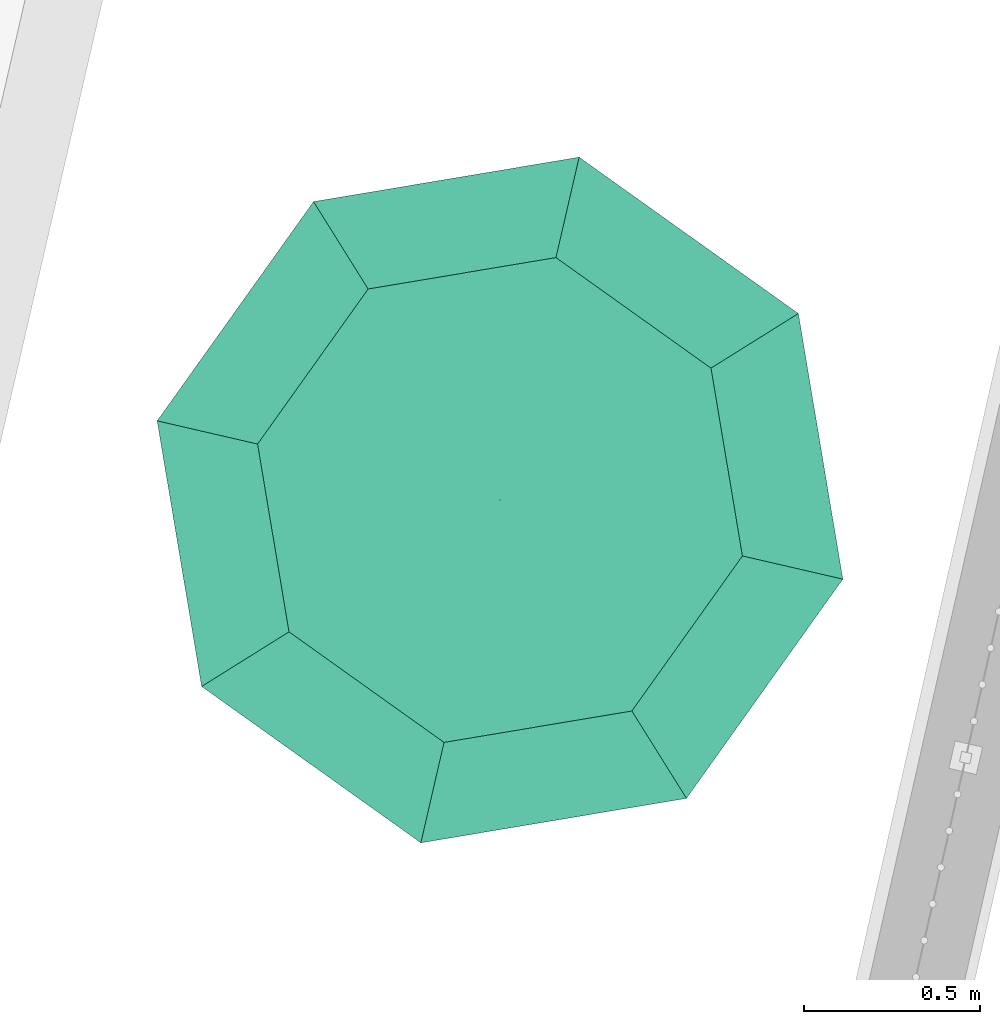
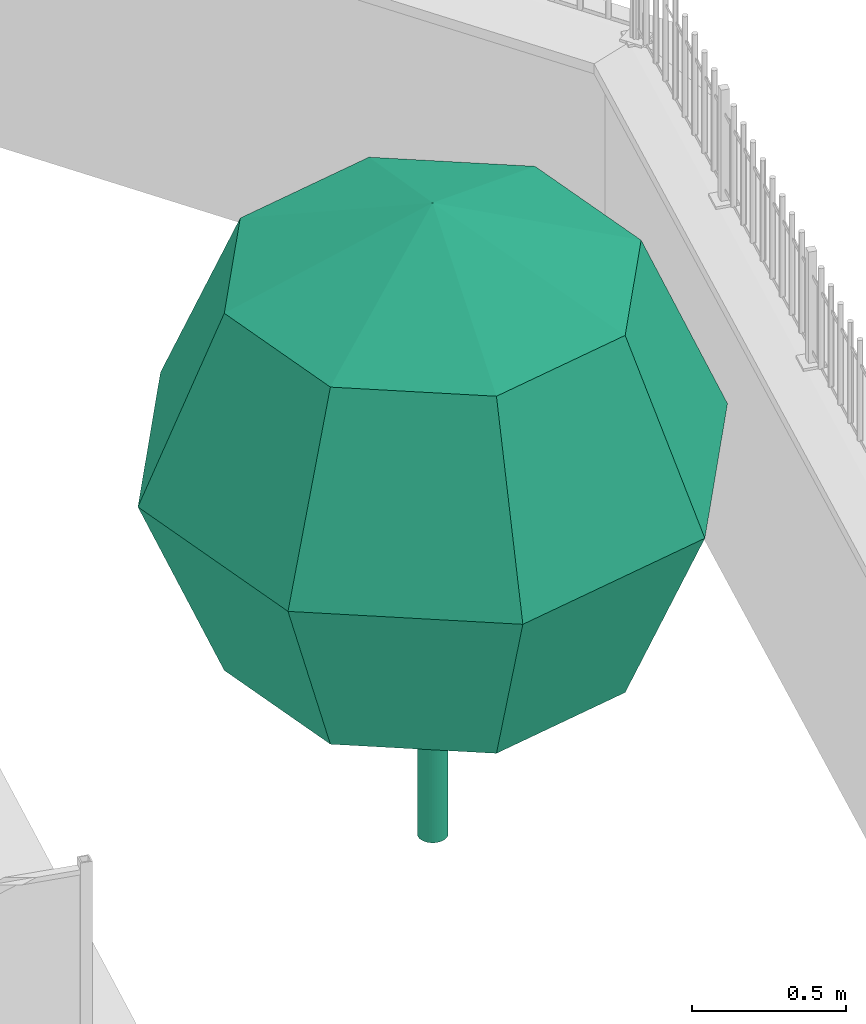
# One storey, part 110 of 119: 1 flow terminal.
"""IFC2X3 building model written with IfcOpenShell, lengths in metres."""

from ifc_helpers import new_model, entity, si_unit, converted_unit, derived_unit, money_unit, direction, frame, origin_with_axes, place, context, subcontext, project, spatial, faceted_brep, source, transform, mapped, type_object, element, save


model = new_model("IFC2X3")

# Units and contexts
model_context = context("Model", 3, precision=1e-05, world=origin_with_axes(), true_north=direction((0.0, 1.0)))
body_context = subcontext(model_context, "Body", "Model", "MODEL_VIEW")
ifc_project = project(units=[si_unit("LENGTHUNIT", "METRE"), si_unit("AREAUNIT", "SQUARE_METRE"), si_unit("VOLUMEUNIT", "CUBIC_METRE"), converted_unit("PLANEANGLEUNIT", "DEGREE", entity("IfcPlaneAngleMeasure", 0.0174532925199), si_unit("PLANEANGLEUNIT", "RADIAN"), dimensions=[0, 0, 0, 0, 0, 0, 0]), si_unit("SOLIDANGLEUNIT", "STERADIAN"), money_unit("EUR"), converted_unit("TIMEUNIT", "Year", entity("IfcTimeMeasure", 31556926.0), si_unit("TIMEUNIT", "SECOND"), dimensions=[0, 0, 1, 0, 0, 0, 0]), si_unit("MASSUNIT", "GRAM", prefix="KILO"), si_unit("THERMODYNAMICTEMPERATUREUNIT", "DEGREE_CELSIUS"), si_unit("LUMINOUSINTENSITYUNIT", "LUMEN"), si_unit("ENERGYUNIT", "JOULE", prefix="MEGA"), derived_unit("THERMALCONDUCTANCEUNIT", [(si_unit("POWERUNIT", "WATT"), 1), (si_unit("LENGTHUNIT", "METRE"), -1), (si_unit("THERMODYNAMICTEMPERATUREUNIT", "KELVIN"), -1)]), derived_unit("SPECIFICHEATCAPACITYUNIT", [(si_unit("ENERGYUNIT", "JOULE"), 1), (si_unit("MASSUNIT", "GRAM", prefix="KILO"), -1), (si_unit("THERMODYNAMICTEMPERATUREUNIT", "KELVIN"), -1)]), derived_unit("MASSDENSITYUNIT", [(si_unit("MASSUNIT", "GRAM", prefix="KILO"), 1), (si_unit("VOLUMEUNIT", "CUBIC_METRE"), -1)])], contexts=[model_context])

# Site, building, storey
site_placement = place(None, origin_with_axes())
site = spatial("IfcSite", under=ifc_project, at=site_placement, Name="Site", CompositionType="ELEMENT")
building_placement = place(site_placement, origin_with_axes())
building = spatial("IfcBuilding", under=site, at=building_placement, Name="Bâtiment", CompositionType="ELEMENT")
storey_placement = place(building_placement, origin_with_axes())
storey = spatial("IfcBuildingStorey", under=building, at=storey_placement, Name="Rez-de-chaussée", CompositionType="ELEMENT", Elevation=0.0)

# Flow terminal
air_terminal_type = type_object("IfcAirTerminalType", Name="Modèle arbre conceptuel 23", PredefinedType="NOTDEFINED")
shared_shape = source(origin_with_axes(), body_context, "Body", "Brep", [
    faceted_brep([(-0.0492403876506, -0.00868240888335, 0.0), (-0.05, 0.0, 0.0), (-0.0492403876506, 0.00868240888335, 0.0), (-0.0469846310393, 0.0171010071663, 0.0), (-0.0433012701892, 0.025, 0.0), (-0.0383022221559, 0.0321393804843, 0.0), (-0.0321393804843, 0.0383022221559, 0.0), (-0.025, 0.0433012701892, 0.0), (-0.0171010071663, 0.0469846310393, 0.0), (-0.00868240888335, 0.0492403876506, 0.0), (0.0, 0.05, 0.0), (0.00868240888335, 0.0492403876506, 0.0), (0.0171010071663, 0.0469846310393, 0.0), (0.025, 0.0433012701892, 0.0), (0.0321393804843, 0.0383022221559, 0.0), (0.0383022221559, 0.0321393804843, 0.0), (0.0433012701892, 0.025, 0.0), (0.0469846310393, 0.0171010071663, 0.0), (0.0492403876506, 0.00868240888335, 0.0), (0.05, 0.0, 0.0), (0.0492403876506, -0.00868240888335, 0.0), (0.0469846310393, -0.0171010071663, 0.0), (0.0433012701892, -0.025, 0.0), (0.0383022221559, -0.0321393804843, 0.0), (0.0321393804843, -0.0383022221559, 0.0), (0.025, -0.0433012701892, 0.0), (0.0171010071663, -0.0469846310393, 0.0), (0.00868240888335, -0.0492403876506, 0.0), (0.0, -0.05, 0.0), (-0.00868240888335, -0.0492403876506, 0.0), (-0.0171010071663, -0.0469846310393, 0.0), (-0.025, -0.0433012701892, 0.0), (-0.0321393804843, -0.0383022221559, 0.0), (-0.0383022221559, -0.0321393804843, 0.0), (-0.0433012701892, -0.025, 0.0), (-0.0469846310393, -0.0171010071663, 0.0), (-0.0492403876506, -0.00868240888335, 0.5), (-0.05, 0.0, 0.5), (-0.0492403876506, 0.00868240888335, 0.5), (-0.0469846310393, 0.0171010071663, 0.5), (-0.0433012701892, 0.025, 0.5), (-0.0383022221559, 0.0321393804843, 0.5), (-0.0321393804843, 0.0383022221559, 0.5), (-0.025, 0.0433012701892, 0.5), (-0.0171010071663, 0.0469846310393, 0.5), (-0.00868240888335, 0.0492403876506, 0.5), (0.0, 0.05, 0.5), (0.00868240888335, 0.0492403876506, 0.5), (0.0171010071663, 0.0469846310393, 0.5), (0.025, 0.0433012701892, 0.5), (0.0321393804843, 0.0383022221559, 0.5), (0.0383022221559, 0.0321393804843, 0.5), (0.0433012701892, 0.025, 0.5), (0.0469846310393, 0.0171010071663, 0.5), (0.0492403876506, 0.00868240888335, 0.5), (0.05, 0.0, 0.5), (0.0492403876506, -0.00868240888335, 0.5), (0.0469846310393, -0.0171010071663, 0.5), (0.0433012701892, -0.025, 0.5), (0.0383022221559, -0.0321393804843, 0.5), (0.0321393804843, -0.0383022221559, 0.5), (0.025, -0.0433012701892, 0.5), (0.0171010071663, -0.0469846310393, 0.5), (0.00868240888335, -0.0492403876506, 0.5), (0.0, -0.05, 0.5), (-0.00868240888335, -0.0492403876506, 0.5), (-0.0171010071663, -0.0469846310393, 0.5), (-0.025, -0.0433012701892, 0.5), (-0.0321393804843, -0.0383022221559, 0.5), (-0.0383022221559, -0.0321393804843, 0.5), (-0.0433012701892, -0.025, 0.5), (-0.0469846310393, -0.0171010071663, 0.5)], [[[0, 1, 2, 3, 4, 5, 6, 7, 8, 9, 10, 11, 12, 13, 14, 15, 16, 17, 18, 19, 20, 21, 22, 23, 24, 25, 26, 27, 28, 29, 30, 31, 32, 33, 34, 35]], [[0, 36, 37, 1]], [[1, 37, 38, 2]], [[2, 38, 39, 3]], [[3, 39, 40, 4]], [[4, 40, 41, 5]], [[5, 41, 42, 6]], [[6, 42, 43, 7]], [[7, 43, 44, 8]], [[8, 44, 45, 9]], [[9, 45, 46, 10]], [[10, 46, 47, 11]], [[11, 47, 48, 12]], [[12, 48, 49, 13]], [[13, 49, 50, 14]], [[14, 50, 51, 15]], [[15, 51, 52, 16]], [[16, 52, 53, 17]], [[17, 53, 54, 18]], [[18, 54, 55, 19]], [[19, 55, 56, 20]], [[20, 56, 57, 21]], [[21, 57, 58, 22]], [[22, 58, 59, 23]], [[23, 59, 60, 24]], [[24, 60, 61, 25]], [[25, 61, 62, 26]], [[26, 62, 63, 27]], [[27, 63, 64, 28]], [[28, 64, 65, 29]], [[29, 65, 66, 30]], [[30, 66, 67, 31]], [[31, 67, 68, 32]], [[32, 68, 69, 33]], [[33, 69, 70, 34]], [[34, 70, 71, 35]], [[35, 71, 36, 0]], [[36, 71, 70, 69, 68, 67, 66, 65, 64, 63, 62, 61, 60, 59, 58, 57, 56, 55, 54, 53, 52, 51, 50, 49, 48, 47, 46, 45, 44, 43, 42, 41, 40, 39, 38, 37]]]),
    faceted_brep([(-0.0492403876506, -0.00868240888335, 0.5), (-0.05, 0.0, 0.5), (-0.0492403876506, 0.00868240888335, 0.5), (-0.0469846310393, 0.0171010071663, 0.5), (-0.0433012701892, 0.025, 0.5), (-0.0383022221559, 0.0321393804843, 0.5), (-0.0321393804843, 0.0383022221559, 0.5), (-0.025, 0.0433012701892, 0.5), (-0.0171010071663, 0.0469846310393, 0.5), (-0.00868240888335, 0.0492403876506, 0.5), (0.0, 0.05, 0.5), (0.00868240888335, 0.0492403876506, 0.5), (0.0171010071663, 0.0469846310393, 0.5), (0.025, 0.0433012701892, 0.5), (0.0321393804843, 0.0383022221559, 0.5), (0.0383022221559, 0.0321393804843, 0.5), (0.0433012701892, 0.025, 0.5), (0.0469846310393, 0.0171010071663, 0.5), (0.0492403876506, 0.00868240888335, 0.5), (0.05, 0.0, 0.5), (0.0492403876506, -0.00868240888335, 0.5), (0.0469846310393, -0.0171010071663, 0.5), (0.0433012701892, -0.025, 0.5), (0.0383022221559, -0.0321393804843, 0.5), (0.0321393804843, -0.0383022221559, 0.5), (0.025, -0.0433012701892, 0.5), (0.0171010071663, -0.0469846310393, 0.5), (0.00868240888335, -0.0492403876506, 0.5), (0.0, -0.05, 0.5), (-0.00868240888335, -0.0492403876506, 0.5), (-0.0171010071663, -0.0469846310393, 0.5), (-0.025, -0.0433012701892, 0.5), (-0.0321393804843, -0.0383022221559, 0.5), (-0.0383022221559, -0.0321393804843, 0.5), (-0.0433012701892, -0.025, 0.5), (-0.0469846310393, -0.0171010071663, 0.5), (0.0, 0.0, 1.5)], [[[0, 1, 2, 3, 4, 5, 6, 7, 8, 9, 10, 11, 12, 13, 14, 15, 16, 17, 18, 19, 20, 21, 22, 23, 24, 25, 26, 27, 28, 29, 30, 31, 32, 33, 34, 35]], [[0, 36, 1]], [[1, 36, 2]], [[2, 36, 3]], [[3, 36, 4]], [[4, 36, 5]], [[5, 36, 6]], [[6, 36, 7]], [[7, 36, 8]], [[8, 36, 9]], [[9, 36, 10]], [[10, 36, 11]], [[11, 36, 12]], [[12, 36, 13]], [[13, 36, 14]], [[14, 36, 15]], [[15, 36, 16]], [[16, 36, 17]], [[17, 36, 18]], [[18, 36, 19]], [[19, 36, 20]], [[20, 36, 21]], [[21, 36, 22]], [[22, 36, 23]], [[23, 36, 24]], [[24, 36, 25]], [[25, 36, 26]], [[26, 36, 27]], [[27, 36, 28]], [[28, 36, 29]], [[29, 36, 30]], [[30, 36, 31]], [[31, 36, 32]], [[32, 36, 33]], [[33, 36, 34]], [[34, 36, 35]], [[35, 36, 0]]]),
    faceted_brep([(-0.707106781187, 0.0, 2.20710678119), (-0.5, -0.5, 2.20710678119), (0.0, 0.0, 2.5), (-1.0, 0.0, 1.5), (-0.707106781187, -0.707106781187, 1.5), (0.0, -0.707106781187, 2.20710678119), (-0.5, 0.5, 2.20710678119), (-0.707106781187, 0.0, 0.792893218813), (-0.5, -0.5, 0.792893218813), (0.0, -1.0, 1.5), (-0.707106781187, 0.707106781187, 1.5), (0.5, -0.5, 2.20710678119), (0.0, 0.707106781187, 2.20710678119), (0.0, 0.0, 0.5), (0.0, -0.707106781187, 0.792893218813), (-0.5, 0.5, 0.792893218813), (0.707106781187, -0.707106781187, 1.5), (0.0, 1.0, 1.5), (0.707106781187, 0.0, 2.20710678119), (0.5, 0.5, 2.20710678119), (0.5, -0.5, 0.792893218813), (0.0, 0.707106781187, 0.792893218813), (1.0, 0.0, 1.5), (0.707106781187, 0.707106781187, 1.5), (0.707106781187, 0.0, 0.792893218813), (0.5, 0.5, 0.792893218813)], [[[0, 1, 2]], [[3, 4, 1, 0]], [[1, 5, 2]], [[6, 0, 2]], [[7, 8, 4, 3]], [[4, 9, 5, 1]], [[10, 3, 0, 6]], [[5, 11, 2]], [[12, 6, 2]], [[13, 8, 7]], [[8, 14, 9, 4]], [[15, 7, 3, 10]], [[9, 16, 11, 5]], [[17, 10, 6, 12]], [[11, 18, 2]], [[19, 12, 2]], [[13, 14, 8]], [[13, 7, 15]], [[14, 20, 16, 9]], [[21, 15, 10, 17]], [[16, 22, 18, 11]], [[23, 17, 12, 19]], [[18, 19, 2]], [[13, 20, 14]], [[13, 15, 21]], [[20, 24, 22, 16]], [[25, 21, 17, 23]], [[22, 23, 19, 18]], [[13, 24, 20]], [[13, 21, 25]], [[24, 25, 23, 22]], [[13, 25, 24]]]),
])
flow_terminal_placement = place(storey_placement, frame((4.60842595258, 13.6543854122, 0.453812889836), z_axis=(0.0, 0.0, 1.0), x_axis=(-0.224876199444, -0.974387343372, 0.0)))
element("IfcFlowTerminal", 1, at=flow_terminal_placement, inside=storey, type_object=air_terminal_type, ObjectType="AIR TERMINAL", context=body_context, shape_type="MappedRepresentation", body=[
    mapped(shared_shape, transform((0.0, 0.0, 0.0))),
])

save(model, "model.ifc")
